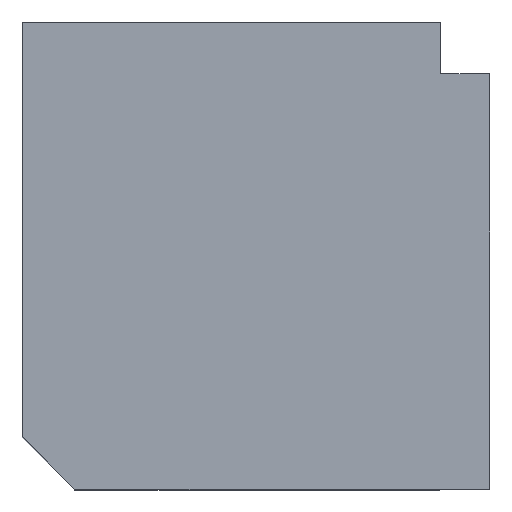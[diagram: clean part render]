
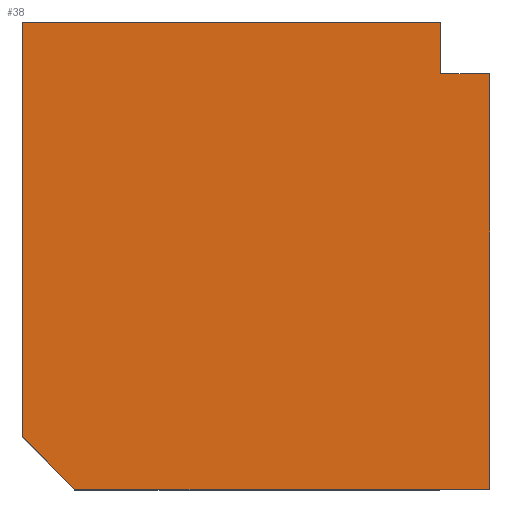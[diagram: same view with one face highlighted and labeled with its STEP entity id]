
A CAD part, top view. The second image highlights one B-rep face of the part: STEP entity #38.
In plain terms, the highlighted planar face has unit normal (0, 0, 1).
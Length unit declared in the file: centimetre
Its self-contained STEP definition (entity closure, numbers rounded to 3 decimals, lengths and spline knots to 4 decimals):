
#8 = LINE ( 'NONE', #956, #162 ) ;
#24 = DIRECTION ( 'NONE',  ( 0., -1., 0. ) ) ;
#38 = ADVANCED_FACE ( 'NONE', ( #1147 ), #269, .T. ) ;
#70 = CARTESIAN_POINT ( 'NONE',  ( 895.2047, 888.9366, 1000. ) ) ;
#86 = VECTOR ( 'NONE', #544, 100. ) ;
#156 = VERTEX_POINT ( 'NONE', #788 ) ;
#162 = VECTOR ( 'NONE', #213, 100. ) ;
#186 = VERTEX_POINT ( 'NONE', #1087 ) ;
#203 = VERTEX_POINT ( 'NONE', #251 ) ;
#213 = DIRECTION ( 'NONE',  ( 0., 1., 0. ) ) ;
#225 = VERTEX_POINT ( 'NONE', #345 ) ;
#226 = DIRECTION ( 'NONE',  ( 1., 0., 0. ) ) ;
#251 = CARTESIAN_POINT ( 'NONE',  ( 0., 112.0888, 1000. ) ) ;
#261 = LINE ( 'NONE', #634, #86 ) ;
#269 = PLANE ( 'NONE',  #988 ) ;
#274 = CARTESIAN_POINT ( 'NONE',  ( 0., 0., 1000. ) ) ;
#276 = DIRECTION ( 'NONE',  ( 0., 1., 0. ) ) ;
#282 = DIRECTION ( 'NONE',  ( 0., 0., 1. ) ) ;
#301 = VECTOR ( 'NONE', #226, 100. ) ;
#313 = CARTESIAN_POINT ( 'NONE',  ( 0., 0., 1000. ) ) ;
#337 = VECTOR ( 'NONE', #276, 100. ) ;
#338 = CARTESIAN_POINT ( 'NONE',  ( 0., 1000., 1000. ) ) ;
#339 = VECTOR ( 'NONE', #24, 100. ) ;
#340 = EDGE_CURVE ( 'NONE', #186, #156, #1233, .T. ) ;
#345 = CARTESIAN_POINT ( 'NONE',  ( 1000., 0., 1000. ) ) ;
#364 = CARTESIAN_POINT ( 'NONE',  ( 1000., 888.9366, 1000. ) ) ;
#395 = LINE ( 'NONE', #313, #301 ) ;
#402 = CARTESIAN_POINT ( 'NONE',  ( 112.0888, 0., 1000. ) ) ;
#421 = LINE ( 'NONE', #874, #339 ) ;
#444 = LINE ( 'NONE', #338, #1132 ) ;
#450 = ORIENTED_EDGE ( 'NONE', *, *, #695, .T. ) ;
#466 = EDGE_LOOP ( 'NONE', ( #1176, #450, #982, #546, #753, #741, #1188 ) ) ;
#467 = DIRECTION ( 'NONE',  ( 1., 0., 0. ) ) ;
#488 = LINE ( 'NONE', #888, #923 ) ;
#495 = EDGE_CURVE ( 'NONE', #225, #856, #8, .T. ) ;
#501 = CARTESIAN_POINT ( 'NONE',  ( 0., 1000., 1000. ) ) ;
#508 = DIRECTION ( 'NONE',  ( 0.707, -0.707, 0. ) ) ;
#544 = DIRECTION ( 'NONE',  ( -1., 0., 0. ) ) ;
#546 = ORIENTED_EDGE ( 'NONE', *, *, #965, .T. ) ;
#547 = EDGE_CURVE ( 'NONE', #985, #203, #421, .T. ) ;
#634 = CARTESIAN_POINT ( 'NONE',  ( 895.2047, 888.9366, 1000. ) ) ;
#695 = EDGE_CURVE ( 'NONE', #156, #985, #444, .T. ) ;
#708 = DIRECTION ( 'NONE',  ( -1., 0., 0. ) ) ;
#741 = ORIENTED_EDGE ( 'NONE', *, *, #495, .T. ) ;
#753 = ORIENTED_EDGE ( 'NONE', *, *, #1022, .T. ) ;
#788 = CARTESIAN_POINT ( 'NONE',  ( 895.2047, 1000., 1000. ) ) ;
#856 = VERTEX_POINT ( 'NONE', #364 ) ;
#858 = EDGE_CURVE ( 'NONE', #856, #186, #261, .T. ) ;
#874 = CARTESIAN_POINT ( 'NONE',  ( 0., 1000., 1000. ) ) ;
#888 = CARTESIAN_POINT ( 'NONE',  ( 56.0444, 56.0444, 1000. ) ) ;
#923 = VECTOR ( 'NONE', #508, 100. ) ;
#956 = CARTESIAN_POINT ( 'NONE',  ( 1000., 1000., 1000. ) ) ;
#965 = EDGE_CURVE ( 'NONE', #203, #1035, #488, .T. ) ;
#982 = ORIENTED_EDGE ( 'NONE', *, *, #547, .T. ) ;
#985 = VERTEX_POINT ( 'NONE', #501 ) ;
#988 = AXIS2_PLACEMENT_3D ( 'NONE', #274, #282, #467 ) ;
#1022 = EDGE_CURVE ( 'NONE', #1035, #225, #395, .T. ) ;
#1035 = VERTEX_POINT ( 'NONE', #402 ) ;
#1087 = CARTESIAN_POINT ( 'NONE',  ( 895.2047, 888.9366, 1000. ) ) ;
#1132 = VECTOR ( 'NONE', #708, 100. ) ;
#1147 = FACE_OUTER_BOUND ( 'NONE', #466, .T. ) ;
#1176 = ORIENTED_EDGE ( 'NONE', *, *, #340, .T. ) ;
#1188 = ORIENTED_EDGE ( 'NONE', *, *, #858, .T. ) ;
#1233 = LINE ( 'NONE', #70, #337 ) ;
